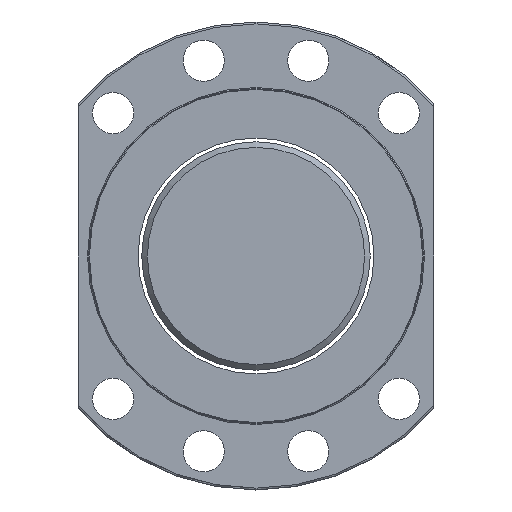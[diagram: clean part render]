
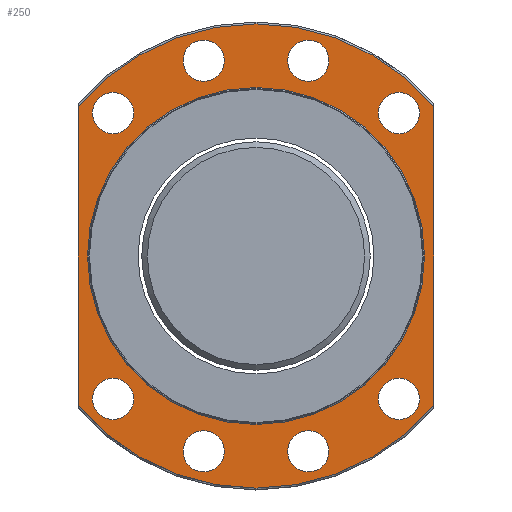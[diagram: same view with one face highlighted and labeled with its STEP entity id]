
A CAD part, left-side view. The second image highlights one B-rep face of the part: STEP entity #250.
In plain terms, the highlighted planar face has unit normal (-1, 0, 0).
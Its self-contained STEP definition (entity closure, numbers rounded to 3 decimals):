
#110=PLANE('',#802);
#134=FACE_BOUND('',#342,.T.);
#135=FACE_BOUND('',#343,.T.);
#136=FACE_BOUND('',#344,.T.);
#137=FACE_BOUND('',#345,.T.);
#138=FACE_BOUND('',#346,.T.);
#139=FACE_BOUND('',#347,.T.);
#140=FACE_BOUND('',#348,.T.);
#141=FACE_BOUND('',#349,.T.);
#142=FACE_BOUND('',#350,.T.);
#233=LINE('',#1296,#241);
#234=LINE('',#1297,#242);
#241=VECTOR('',#929,1.);
#242=VECTOR('',#930,1.);
#250=ADVANCED_FACE('',(#308,#134,#135,#136,#137,#138,#139,#140,#141,#142),
#110,.T.);
#308=FACE_OUTER_BOUND('',#341,.T.);
#341=EDGE_LOOP('',(#474,#475,#476,#477));
#342=EDGE_LOOP('',(#478));
#343=EDGE_LOOP('',(#479));
#344=EDGE_LOOP('',(#480));
#345=EDGE_LOOP('',(#481));
#346=EDGE_LOOP('',(#482));
#347=EDGE_LOOP('',(#483));
#348=EDGE_LOOP('',(#484));
#349=EDGE_LOOP('',(#485));
#350=EDGE_LOOP('',(#486));
#474=ORIENTED_EDGE('',*,*,#673,.F.);
#475=ORIENTED_EDGE('',*,*,#650,.T.);
#476=ORIENTED_EDGE('',*,*,#674,.T.);
#477=ORIENTED_EDGE('',*,*,#671,.T.);
#478=ORIENTED_EDGE('',*,*,#675,.F.);
#479=ORIENTED_EDGE('',*,*,#676,.F.);
#480=ORIENTED_EDGE('',*,*,#677,.F.);
#481=ORIENTED_EDGE('',*,*,#678,.F.);
#482=ORIENTED_EDGE('',*,*,#679,.F.);
#483=ORIENTED_EDGE('',*,*,#680,.F.);
#484=ORIENTED_EDGE('',*,*,#681,.F.);
#485=ORIENTED_EDGE('',*,*,#682,.F.);
#486=ORIENTED_EDGE('',*,*,#683,.F.);
#587=VERTEX_POINT('',#1144);
#588=VERTEX_POINT('',#1145);
#602=VERTEX_POINT('',#1273);
#603=VERTEX_POINT('',#1275);
#604=VERTEX_POINT('',#1299);
#605=VERTEX_POINT('',#1301);
#606=VERTEX_POINT('',#1303);
#607=VERTEX_POINT('',#1305);
#608=VERTEX_POINT('',#1307);
#609=VERTEX_POINT('',#1309);
#610=VERTEX_POINT('',#1311);
#611=VERTEX_POINT('',#1313);
#612=VERTEX_POINT('',#1315);
#650=EDGE_CURVE('',#587,#588,#717,.T.);
#671=EDGE_CURVE('',#603,#602,#729,.T.);
#673=EDGE_CURVE('',#587,#602,#233,.T.);
#674=EDGE_CURVE('',#588,#603,#234,.T.);
#675=EDGE_CURVE('',#604,#604,#730,.T.);
#676=EDGE_CURVE('',#605,#605,#731,.T.);
#677=EDGE_CURVE('',#606,#606,#732,.T.);
#678=EDGE_CURVE('',#607,#607,#733,.T.);
#679=EDGE_CURVE('',#608,#608,#734,.T.);
#680=EDGE_CURVE('',#609,#609,#735,.T.);
#681=EDGE_CURVE('',#610,#610,#736,.T.);
#682=EDGE_CURVE('',#611,#611,#737,.T.);
#683=EDGE_CURVE('',#612,#612,#738,.T.);
#717=CIRCLE('',#775,62.);
#729=CIRCLE('',#791,62.);
#730=CIRCLE('',#793,45.);
#731=CIRCLE('',#794,5.5);
#732=CIRCLE('',#795,5.5);
#733=CIRCLE('',#796,5.5);
#734=CIRCLE('',#797,5.5);
#735=CIRCLE('',#798,5.5);
#736=CIRCLE('',#799,5.5);
#737=CIRCLE('',#800,5.5);
#738=CIRCLE('',#801,5.5);
#775=AXIS2_PLACEMENT_3D('',#1143,#889,#890);
#791=AXIS2_PLACEMENT_3D('',#1274,#925,#926);
#793=AXIS2_PLACEMENT_3D('',#1298,#931,#932);
#794=AXIS2_PLACEMENT_3D('',#1300,#933,#934);
#795=AXIS2_PLACEMENT_3D('',#1302,#935,#936);
#796=AXIS2_PLACEMENT_3D('',#1304,#937,#938);
#797=AXIS2_PLACEMENT_3D('',#1306,#939,#940);
#798=AXIS2_PLACEMENT_3D('',#1308,#941,#942);
#799=AXIS2_PLACEMENT_3D('',#1310,#943,#944);
#800=AXIS2_PLACEMENT_3D('',#1312,#945,#946);
#801=AXIS2_PLACEMENT_3D('',#1314,#947,#948);
#802=AXIS2_PLACEMENT_3D('',#1316,#949,#950);
#889=DIRECTION('',(-1.,0.,0.));
#890=DIRECTION('',(0.,-1.,0.));
#925=DIRECTION('',(-1.,0.,0.));
#926=DIRECTION('',(0.,-1.,0.));
#929=DIRECTION('',(0.,0.,1.));
#930=DIRECTION('',(0.,0.,1.));
#931=DIRECTION('',(-1.,0.,0.));
#932=DIRECTION('',(0.,-1.,0.));
#933=DIRECTION('',(-1.,0.,0.));
#934=DIRECTION('',(0.,-1.,0.));
#935=DIRECTION('',(-1.,0.,0.));
#936=DIRECTION('',(0.,-1.,0.));
#937=DIRECTION('',(-1.,0.,0.));
#938=DIRECTION('',(0.,-1.,0.));
#939=DIRECTION('',(-1.,0.,0.));
#940=DIRECTION('',(0.,-1.,0.));
#941=DIRECTION('',(-1.,0.,0.));
#942=DIRECTION('',(0.,-1.,0.));
#943=DIRECTION('',(-1.,0.,0.));
#944=DIRECTION('',(0.,-1.,0.));
#945=DIRECTION('',(-1.,0.,0.));
#946=DIRECTION('',(0.,-1.,0.));
#947=DIRECTION('',(-1.,0.,0.));
#948=DIRECTION('',(0.,-1.,0.));
#949=DIRECTION('',(-1.,0.,0.));
#950=DIRECTION('',(0.,-1.,0.));
#1143=CARTESIAN_POINT('',(-49.5,0.,0.));
#1144=CARTESIAN_POINT('',(-49.5,47.5,-39.847));
#1145=CARTESIAN_POINT('',(-49.5,-47.5,-39.847));
#1273=CARTESIAN_POINT('',(-49.5,47.5,39.847));
#1274=CARTESIAN_POINT('',(-49.5,0.,0.));
#1275=CARTESIAN_POINT('',(-49.5,-47.5,39.847));
#1296=CARTESIAN_POINT('',(-49.5,47.5,0.));
#1297=CARTESIAN_POINT('',(-49.5,-47.5,0.));
#1298=CARTESIAN_POINT('',(-49.5,0.,0.));
#1299=CARTESIAN_POINT('',(-49.5,-45.,0.));
#1300=CARTESIAN_POINT('',(-49.5,13.976,52.16));
#1301=CARTESIAN_POINT('',(-49.5,8.476,52.16));
#1302=CARTESIAN_POINT('',(-49.5,-13.976,52.16));
#1303=CARTESIAN_POINT('',(-49.5,-19.476,52.16));
#1304=CARTESIAN_POINT('',(-49.5,-13.976,-52.16));
#1305=CARTESIAN_POINT('',(-49.5,-19.476,-52.16));
#1306=CARTESIAN_POINT('',(-49.5,13.976,-52.16));
#1307=CARTESIAN_POINT('',(-49.5,8.476,-52.16));
#1308=CARTESIAN_POINT('',(-49.5,-38.184,38.184));
#1309=CARTESIAN_POINT('',(-49.5,-43.684,38.184));
#1310=CARTESIAN_POINT('',(-49.5,38.184,38.184));
#1311=CARTESIAN_POINT('',(-49.5,32.684,38.184));
#1312=CARTESIAN_POINT('',(-49.5,-38.184,-38.184));
#1313=CARTESIAN_POINT('',(-49.5,-43.684,-38.184));
#1314=CARTESIAN_POINT('',(-49.5,38.184,-38.184));
#1315=CARTESIAN_POINT('',(-49.5,32.684,-38.184));
#1316=CARTESIAN_POINT('',(-49.5,53.5,0.));
